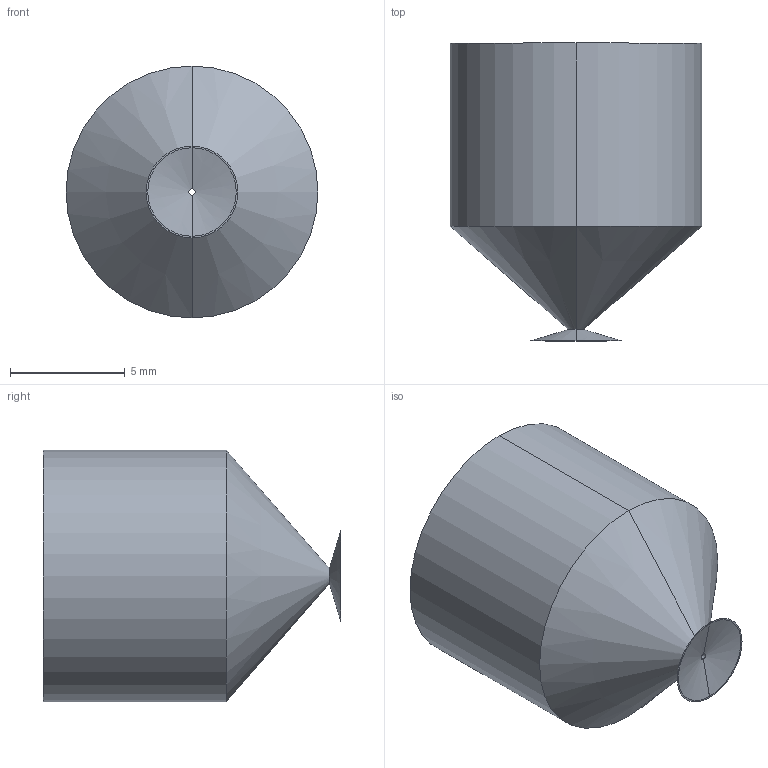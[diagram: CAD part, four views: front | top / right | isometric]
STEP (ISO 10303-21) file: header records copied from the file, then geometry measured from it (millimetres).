
FILE_DESCRIPTION (( 'STEP AP214' ), '1' );
FILE_NAME ('VSH-S4.STEP', '2019-11-30T07:47:13', ( '微软用户' ), ( '微软中国' ), 'SwSTEP 2.0', 'SolidWorks 2016', '' );
FILE_SCHEMA (( 'AUTOMOTIVE_DESIGN' ));
Length unit declared in the file: millimetre
Products named in the file (1): VSH-S4
Bounding box: 11 x 13 x 11 mm (x, y, z)
Volume: 753.1 mm3; surface area: 664.6 mm2
Topology: 1 solids, 1 shells, 18 faces, 36 edges, 22 vertices
Faces by surface type: cylinder 8, cone 6, plane 4
Entity records: 512 total; most frequent: DIRECTION 96, CARTESIAN_POINT 77, ORIENTED_EDGE 72, AXIS2_PLACEMENT_3D 41, EDGE_CURVE 36, VERTEX_POINT 22, CIRCLE 22, EDGE_LOOP 22
